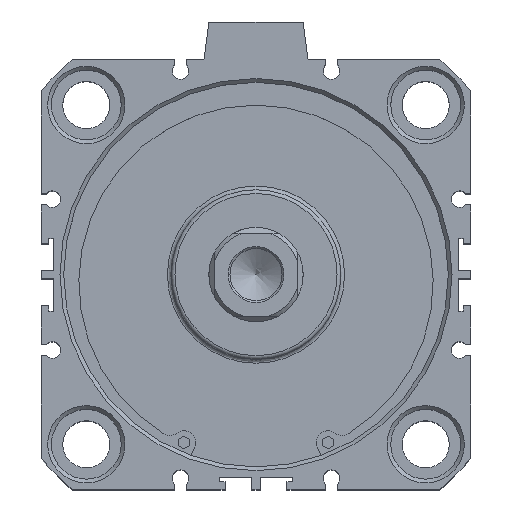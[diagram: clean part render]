
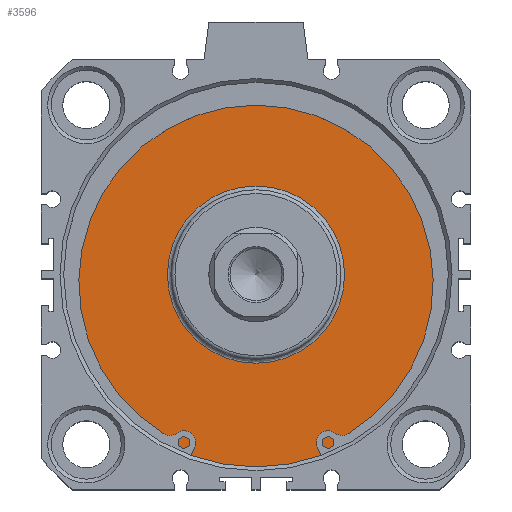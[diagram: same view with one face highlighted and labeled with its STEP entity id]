
A CAD part, top view. The second image highlights one B-rep face of the part: STEP entity #3596.
In plain terms, the highlighted planar face has unit normal (0, 0, 1).
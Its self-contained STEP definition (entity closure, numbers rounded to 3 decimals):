
#3545=CARTESIAN_POINT('',(0.957,25.414,67.6));
#3546=VERTEX_POINT('',#3545);
#3547=CARTESIAN_POINT('',(0.957,1.914,67.6));
#3548=DIRECTION('',(0.0,0.0,1.0));
#3549=DIRECTION('',(0.0,-1.0,0.0));
#3550=AXIS2_PLACEMENT_3D('',#3547,#3548,#3549);
#3551=CIRCLE('',#3550,23.5);
#3552=EDGE_CURVE('',#3546,#3546,#3551,.T.);
#3577=CARTESIAN_POINT('',(0.957,38.664,67.6));
#3578=DIRECTION('',(0.0,0.0,1.0));
#3579=DIRECTION('',(1.0,0.0,0.0));
#3580=AXIS2_PLACEMENT_3D('',#3577,#3578,#3579);
#3581=PLANE('',#3580);
#3582=CARTESIAN_POINT('',(0.957,52.914,67.6));
#3583=VERTEX_POINT('',#3582);
#3584=CARTESIAN_POINT('',(0.957,1.914,67.6));
#3585=DIRECTION('',(0.0,0.0,-1.0));
#3586=DIRECTION('',(0.0,1.0,0.0));
#3587=AXIS2_PLACEMENT_3D('',#3584,#3585,#3586);
#3588=CIRCLE('',#3587,51.);
#3589=EDGE_CURVE('',#3583,#3583,#3588,.T.);
#3590=ORIENTED_EDGE('',*,*,#3589,.F.);
#3591=EDGE_LOOP('',(#3590));
#3592=FACE_OUTER_BOUND('',#3591,.T.);
#3593=ORIENTED_EDGE('',*,*,#3552,.F.);
#3594=EDGE_LOOP('',(#3593));
#3595=FACE_BOUND('',#3594,.T.);
#3596=ADVANCED_FACE('',(#3592,#3595),#3581,.T.);
